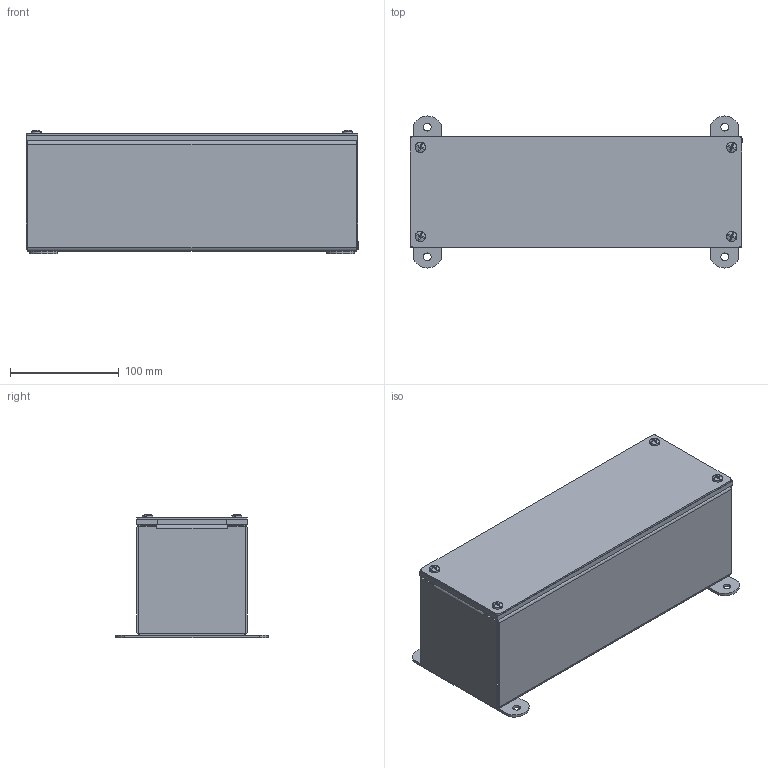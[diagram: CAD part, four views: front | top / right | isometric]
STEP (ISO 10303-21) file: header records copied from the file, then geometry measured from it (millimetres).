
FILE_DESCRIPTION (( 'STEP AP203' ), '1' );
FILE_NAME ('f4412scss.STEP', '2016-02-22T15:34:51', ( '' ), ( '' ), 'SwSTEP 2.0', 'SolidWorks 2014', '' );
FILE_SCHEMA (( 'CONFIG_CONTROL_DESIGN' ));
Length unit declared in the file: inch
Products named in the file (12): 89127660; 89127667; 89128162; 14241008; 89127732; 87789569_DEFAULT; 89129278; 58110002; 89127767; f4412scss; 89127751; 89127716
Assembly tree (24 placements, depth 3):
  f4412scss
    89127751
      89127732
      89129278  x2
      89127767  x2
    89128162
      89127716
      89127660  x2
      89127667  x2
    14241008  x4
    87789569_DEFAULT  x4
    58110002  x4
Bounding box: 304.8 x 139.7 x 113.34 mm (x, y, z)
Volume: 304872.6 mm3; surface area: 363701.1 mm2
Topology: 22 solids, 22 shells, 416 faces, 960 edges, 600 vertices
Faces by surface type: plane 228, cylinder 100, sphere 32, cone 32, torus 24
Entity records: 7706 total; most frequent: DIRECTION 1134, CARTESIAN_POINT 1050, ORIENTED_EDGE 968, EDGE_CURVE 484, AXIS2_PLACEMENT_3D 419, VERTEX_POINT 307, LINE 296, VECTOR 296
